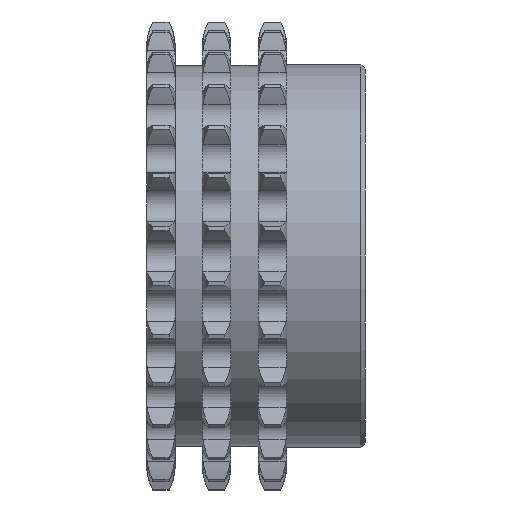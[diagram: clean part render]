
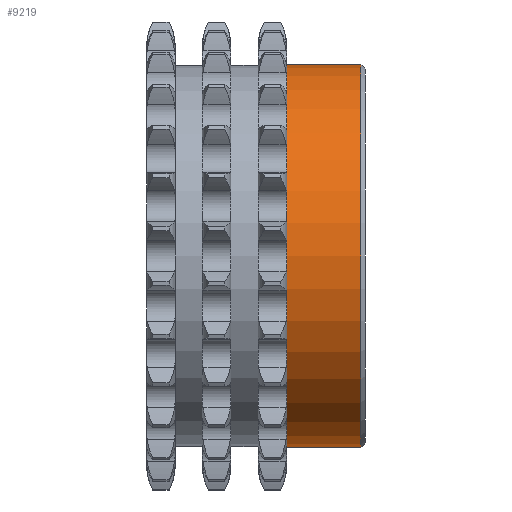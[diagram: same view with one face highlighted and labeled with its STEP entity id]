
A CAD part, front view. The second image highlights one B-rep face of the part: STEP entity #9219.
In plain terms, the highlighted cylindrical face has radius 35 mm (diameter 70 mm), a full revolution.
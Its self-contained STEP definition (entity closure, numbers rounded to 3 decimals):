
#26=FACE_BOUND('',#1203,.T.);
#694=FACE_OUTER_BOUND('',#1202,.T.);
#1202=EDGE_LOOP('',(#8380));
#1203=EDGE_LOOP('',(#8381));
#1592=CIRCLE('',#10010,35.);
#1707=CIRCLE('',#10214,35.);
#3981=VERTEX_POINT('',#18237);
#3986=VERTEX_POINT('',#18446);
#5340=EDGE_CURVE('',#3981,#3981,#1592,.T.);
#5455=EDGE_CURVE('',#3986,#3986,#1707,.T.);
#8380=ORIENTED_EDGE('',*,*,#5340,.T.);
#8381=ORIENTED_EDGE('',*,*,#5455,.F.);
#8724=CYLINDRICAL_SURFACE('',#10213,35.);
#9219=ADVANCED_FACE('',(#694,#26),#8724,.T.);
#10010=AXIS2_PLACEMENT_3D('',#18238,#12115,#12116);
#10213=AXIS2_PLACEMENT_3D('',#18445,#12521,#12522);
#10214=AXIS2_PLACEMENT_3D('',#18447,#12523,#12524);
#12115=DIRECTION('center_axis',(1.,0.,0.));
#12116=DIRECTION('ref_axis',(0.,0.,-1.));
#12521=DIRECTION('center_axis',(1.,0.,0.));
#12522=DIRECTION('ref_axis',(0.,1.,0.));
#12523=DIRECTION('center_axis',(1.,0.,0.));
#12524=DIRECTION('ref_axis',(0.,0.,-1.));
#18237=CARTESIAN_POINT('',(-205.736,-254.525,0.));
#18238=CARTESIAN_POINT('Origin',(-205.736,-289.525,0.));
#18445=CARTESIAN_POINT('Origin',(-198.936,-289.525,0.));
#18446=CARTESIAN_POINT('',(-192.136,-254.525,0.));
#18447=CARTESIAN_POINT('Origin',(-192.136,-289.525,0.));
